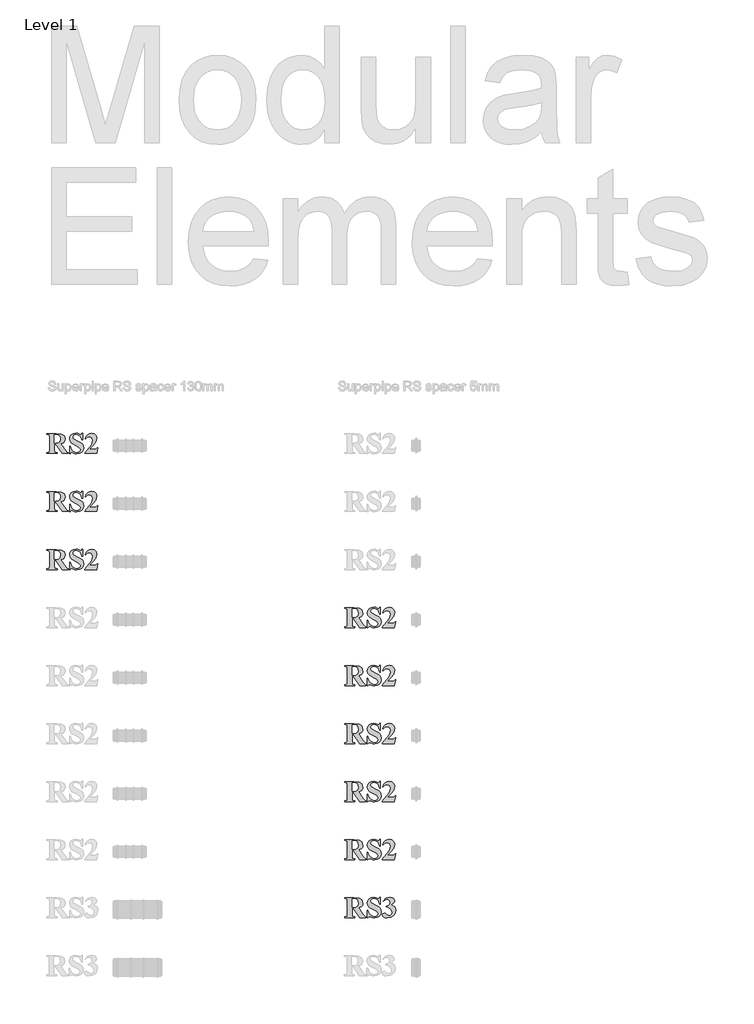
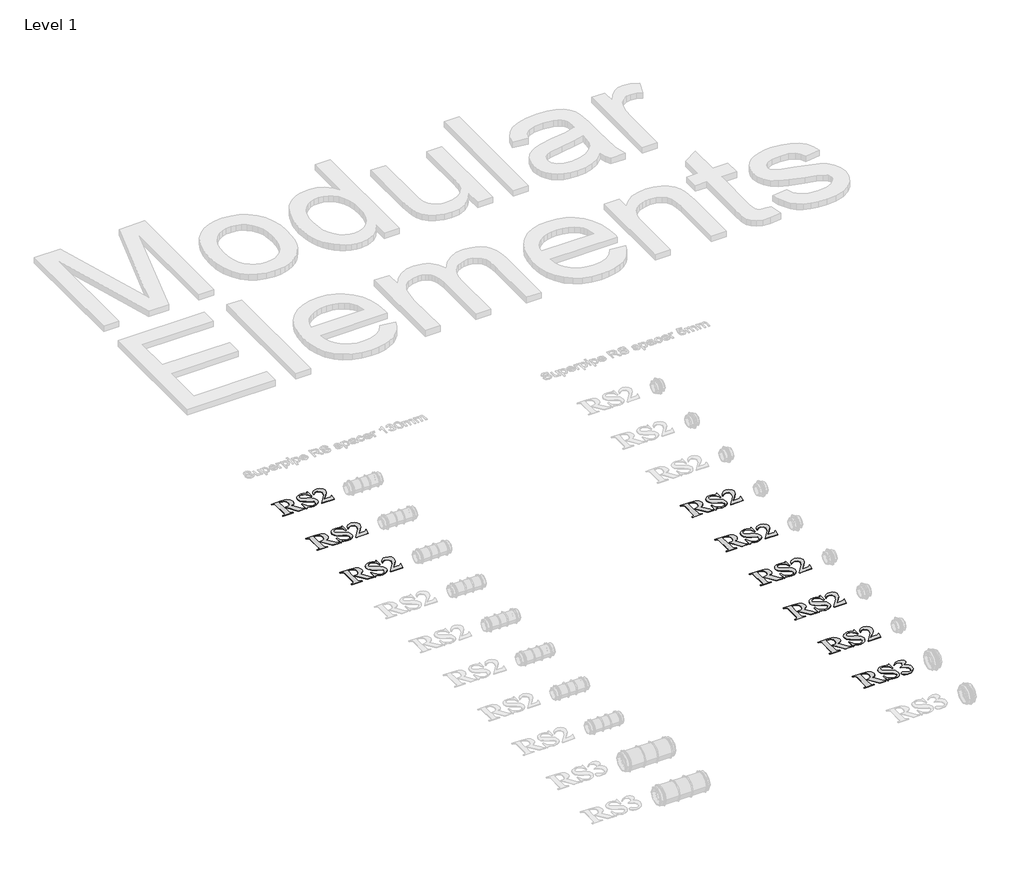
# One storey, part 50 of 57: 9 proxies.
"""IFC4 building model written with IfcOpenShell, lengths in millimetres."""

from ifc_helpers import new_model, si_unit, frame, origin, place, context, project, spatial, polyline, outline, extrude, element, save

model = new_model("IFC4")

# Units and contexts
model_context = context("Model", 3, world=origin())
ifc_project = project(units=[si_unit("LENGTHUNIT", "METRE", prefix="MILLI")], contexts=[model_context])

# Site, building, storey
site = spatial("IfcSite", under=ifc_project)
building = spatial("IfcBuilding", under=site)
storey = spatial("IfcBuildingStorey", under=building, Name="Level 1", Elevation=27.3876384)

# Proxies
placement = place(None, origin())
element("IfcBuildingElementProxy", 1, Name="100mm Arial", ObjectType="100mm Arial", at=placement, inside=storey, context=model_context, shape_type="SweptSolid", body=[
    extrude(outline(polyline([(40860.0811889, 18653.3090579), (40860.0811889, 18623.6453109), (40861.0899744, 18614.034584), (40864.6207237, 18610.8719051), (40874.0405993, 18609.6859006), (40874.0405993, 18606.196048), (40821.6928105, 18606.196048), (40821.6928105, 18609.6859006), (40831.1535827, 18610.8991696), (40834.6434353, 18614.0618485), (40835.6522208, 18623.6453109), (40835.6522208, 18691.6974363), (40834.6434353, 18701.3081631), (40831.112686, 18704.470842), (40821.6928105, 18705.6568466), (40821.6928105, 18709.1466992), (40869.2693164, 18709.1466992), (40896.4383641, 18706.6111032), (40910.4795678, 18697.2457566), (40915.9188303, 18681.2278785), (40914.003501, 18670.9968849), (40908.2575133, 18662.7153011), (40894.5707477, 18655.7628605), (40918.9997158, 18620.946128), (40925.1887512, 18612.3305545), (40931.6231669, 18609.6859006), (40931.6231669, 18606.196048), (40899.88732, 18606.196048), (40866.8427783, 18653.3090579), (40860.0811889, 18653.3090579)]), holes=[polyline([(40860.0811889, 18703.9119203), (40860.0811889, 18658.5438367), (40864.4162402, 18658.5438367), (40880.2432669, 18660.4932466), (40888.4907701, 18667.5138484), (40891.4898622, 18680.7643825), (40890.1130063, 18691.0533131), (40885.9824386, 18698.2545421), (40878.7846176, 18702.4975758), (40868.206002, 18703.9119203), (40860.0811889, 18703.9119203)])]), frame((0.0, 0.0, 27.3876384), z_axis=(0.0, 0.0, 1.0), x_axis=(1.0, 0.0, 0.0)), (0.0, 0.0, 1.0), 2.0),
    extrude(outline(polyline([(41006.6549975, 18710.8916255), (41006.6549975, 18675.9930996), (41003.1651449, 18675.9930996), (40999.1504512, 18688.0678533), (40991.7413306, 18697.5184013), (40982.26011, 18703.6222353), (40972.0291163, 18705.6568466), (40959.0784915, 18701.5535434), (40954.3072087, 18692.1064034), (40956.052135, 18686.0809548), (40963.7679809, 18679.0739851), (40981.7625333, 18670.2402958), (40997.875837, 18661.6792512), (41006.7367909, 18653.6089671), (41011.8897763, 18635.6962081), (41009.3609964, 18623.7816333), (41001.7746567, 18613.6665137), (40990.2894974, 18606.7549697), (40976.0642584, 18604.4511217), (40966.8352342, 18605.5553328), (40955.9158126, 18609.7404295), (40949.890364, 18611.4308268), (40945.6780029, 18609.713165), (40942.0927247, 18604.4511217), (40938.6028721, 18604.4511217), (40938.6028721, 18642.8395001), (40942.0927247, 18642.8395001), (40947.1673247, 18628.5904047), (40955.4659488, 18618.178784), (40965.7616955, 18611.8091214), (40976.8276637, 18609.6859006), (40990.9370286, 18614.2799643), (40996.1854397, 18624.9812701), (40994.072443, 18631.9882397), (40987.6516596, 18638.4226554), (40972.3835545, 18646.3838816), (40951.0354719, 18658.0121795), (40941.8200799, 18668.7134853), (40938.6028721, 18681.718639), (40940.9305765, 18692.948194), (40947.9136897, 18702.3714776), (40958.4411845, 18708.7615885), (40971.4020335, 18710.8916255), (40981.4080952, 18709.6919887), (40990.3644747, 18706.3520907), (40997.7667792, 18703.9119203), (41000.983987, 18705.1115571), (41003.1651449, 18710.8916255), (41006.6549975, 18710.8916255)])), frame((0.0, 0.0, 27.3876384), z_axis=(0.0, 0.0, 1.0), x_axis=(1.0, 0.0, 0.0)), (0.0, 0.0, 1.0), 2.0),
    extrude(outline(polyline([(41078.9876452, 18606.196048), (41017.1245552, 18606.196048), (41017.1245552, 18607.9409743), (41052.8955442, 18652.5456526), (41059.0027862, 18674.9297852), (41053.7816396, 18688.166687), (41041.0354983, 18693.4423626), (41030.0479156, 18690.5114317), (41021.8413091, 18681.718639), (41019.0330683, 18682.7274246), (41024.2917036, 18695.2281856), (41031.7246807, 18703.9937137), (41040.902584, 18709.1671476), (41051.3959982, 18710.8916255), (41065.9279624, 18707.3063472), (41076.2203011, 18697.4911369), (41079.9419017, 18685.80831), (41074.4344781, 18665.6598643), (41062.4312937, 18649.1171451), (41041.5262588, 18627.1351635), (41063.5014243, 18627.1351635), (41074.0391432, 18627.7349819), (41078.0470208, 18629.7798174), (41082.1775885, 18635.8597949), (41085.1766806, 18635.8597949), (41078.9876452, 18606.196048)])), frame((0.0, 0.0, 27.3876384), z_axis=(0.0, 0.0, 1.0), x_axis=(1.0, 0.0, 0.0)), (0.0, 0.0, 1.0), 2.0),
])
element("IfcBuildingElementProxy", 2, Name="100mm Arial", ObjectType="100mm Arial", at=placement, inside=storey, context=model_context, shape_type="SweptSolid", body=[
    extrude(outline(polyline([(40860.0811889, 18353.3090579), (40860.0811889, 18323.6453109), (40861.0899744, 18314.034584), (40864.6207237, 18310.8719051), (40874.0405993, 18309.6859006), (40874.0405993, 18306.196048), (40821.6928105, 18306.196048), (40821.6928105, 18309.6859006), (40831.1535827, 18310.8991696), (40834.6434353, 18314.0618485), (40835.6522208, 18323.6453109), (40835.6522208, 18391.6974363), (40834.6434353, 18401.3081631), (40831.112686, 18404.470842), (40821.6928105, 18405.6568466), (40821.6928105, 18409.1466992), (40869.2693164, 18409.1466992), (40896.4383641, 18406.6111032), (40910.4795678, 18397.2457566), (40915.9188303, 18381.2278785), (40914.003501, 18370.9968849), (40908.2575133, 18362.7153011), (40894.5707477, 18355.7628605), (40918.9997158, 18320.946128), (40925.1887512, 18312.3305545), (40931.6231669, 18309.6859006), (40931.6231669, 18306.196048), (40899.88732, 18306.196048), (40866.8427783, 18353.3090579), (40860.0811889, 18353.3090579)]), holes=[polyline([(40860.0811889, 18403.9119203), (40860.0811889, 18358.5438367), (40864.4162402, 18358.5438367), (40880.2432669, 18360.4932466), (40888.4907701, 18367.5138484), (40891.4898622, 18380.7643825), (40890.1130063, 18391.0533131), (40885.9824386, 18398.2545421), (40878.7846176, 18402.4975758), (40868.206002, 18403.9119203), (40860.0811889, 18403.9119203)])]), frame((0.0, 0.0, 27.3876384), z_axis=(0.0, 0.0, 1.0), x_axis=(1.0, 0.0, 0.0)), (0.0, 0.0, 1.0), 2.0),
    extrude(outline(polyline([(41006.6549975, 18410.8916255), (41006.6549975, 18375.9930996), (41003.1651449, 18375.9930996), (40999.1504512, 18388.0678533), (40991.7413306, 18397.5184013), (40982.26011, 18403.6222353), (40972.0291163, 18405.6568466), (40959.0784915, 18401.5535434), (40954.3072087, 18392.1064034), (40956.052135, 18386.0809548), (40963.7679809, 18379.0739851), (40981.7625333, 18370.2402958), (40997.875837, 18361.6792512), (41006.7367909, 18353.6089671), (41011.8897763, 18335.6962081), (41009.3609964, 18323.7816333), (41001.7746567, 18313.6665137), (40990.2894974, 18306.7549697), (40976.0642584, 18304.4511217), (40966.8352342, 18305.5553328), (40955.9158126, 18309.7404295), (40949.890364, 18311.4308268), (40945.6780029, 18309.713165), (40942.0927247, 18304.4511217), (40938.6028721, 18304.4511217), (40938.6028721, 18342.8395001), (40942.0927247, 18342.8395001), (40947.1673247, 18328.5904047), (40955.4659488, 18318.178784), (40965.7616955, 18311.8091214), (40976.8276637, 18309.6859006), (40990.9370286, 18314.2799643), (40996.1854397, 18324.9812701), (40994.072443, 18331.9882397), (40987.6516596, 18338.4226554), (40972.3835545, 18346.3838816), (40951.0354719, 18358.0121795), (40941.8200799, 18368.7134853), (40938.6028721, 18381.718639), (40940.9305765, 18392.948194), (40947.9136897, 18402.3714776), (40958.4411845, 18408.7615885), (40971.4020335, 18410.8916255), (40981.4080952, 18409.6919887), (40990.3644747, 18406.3520907), (40997.7667792, 18403.9119203), (41000.983987, 18405.1115571), (41003.1651449, 18410.8916255), (41006.6549975, 18410.8916255)])), frame((0.0, 0.0, 27.3876384), z_axis=(0.0, 0.0, 1.0), x_axis=(1.0, 0.0, 0.0)), (0.0, 0.0, 1.0), 2.0),
    extrude(outline(polyline([(41078.9876452, 18306.196048), (41017.1245552, 18306.196048), (41017.1245552, 18307.9409743), (41052.8955442, 18352.5456526), (41059.0027862, 18374.9297852), (41053.7816396, 18388.166687), (41041.0354983, 18393.4423626), (41030.0479156, 18390.5114317), (41021.8413091, 18381.718639), (41019.0330683, 18382.7274246), (41024.2917036, 18395.2281856), (41031.7246807, 18403.9937137), (41040.902584, 18409.1671476), (41051.3959982, 18410.8916255), (41065.9279624, 18407.3063472), (41076.2203011, 18397.4911369), (41079.9419017, 18385.80831), (41074.4344781, 18365.6598643), (41062.4312937, 18349.1171451), (41041.5262588, 18327.1351635), (41063.5014243, 18327.1351635), (41074.0391432, 18327.7349819), (41078.0470208, 18329.7798174), (41082.1775885, 18335.8597949), (41085.1766806, 18335.8597949), (41078.9876452, 18306.196048)])), frame((0.0, 0.0, 27.3876384), z_axis=(0.0, 0.0, 1.0), x_axis=(1.0, 0.0, 0.0)), (0.0, 0.0, 1.0), 2.0),
])
element("IfcBuildingElementProxy", 3, Name="100mm Arial", ObjectType="100mm Arial", at=placement, inside=storey, context=model_context, shape_type="SweptSolid", body=[
    extrude(outline(polyline([(40860.0811889, 18053.3090579), (40860.0811889, 18023.6453109), (40861.0899744, 18014.034584), (40864.6207237, 18010.8719051), (40874.0405993, 18009.6859006), (40874.0405993, 18006.196048), (40821.6928105, 18006.196048), (40821.6928105, 18009.6859006), (40831.1535827, 18010.8991696), (40834.6434353, 18014.0618485), (40835.6522208, 18023.6453109), (40835.6522208, 18091.6974363), (40834.6434353, 18101.3081631), (40831.112686, 18104.470842), (40821.6928105, 18105.6568466), (40821.6928105, 18109.1466992), (40869.2693164, 18109.1466992), (40896.4383641, 18106.6111032), (40910.4795678, 18097.2457566), (40915.9188303, 18081.2278785), (40914.003501, 18070.9968849), (40908.2575133, 18062.7153011), (40894.5707477, 18055.7628605), (40918.9997158, 18020.946128), (40925.1887512, 18012.3305545), (40931.6231669, 18009.6859006), (40931.6231669, 18006.196048), (40899.88732, 18006.196048), (40866.8427783, 18053.3090579), (40860.0811889, 18053.3090579)]), holes=[polyline([(40860.0811889, 18103.9119203), (40860.0811889, 18058.5438367), (40864.4162402, 18058.5438367), (40880.2432669, 18060.4932466), (40888.4907701, 18067.5138484), (40891.4898622, 18080.7643825), (40890.1130063, 18091.0533131), (40885.9824386, 18098.2545421), (40878.7846176, 18102.4975758), (40868.206002, 18103.9119203), (40860.0811889, 18103.9119203)])]), frame((0.0, 0.0, 27.3876384), z_axis=(0.0, 0.0, 1.0), x_axis=(1.0, 0.0, 0.0)), (0.0, 0.0, 1.0), 2.0),
    extrude(outline(polyline([(41006.6549975, 18110.8916255), (41006.6549975, 18075.9930996), (41003.1651449, 18075.9930996), (40999.1504512, 18088.0678533), (40991.7413306, 18097.5184013), (40982.26011, 18103.6222353), (40972.0291163, 18105.6568466), (40959.0784915, 18101.5535434), (40954.3072087, 18092.1064034), (40956.052135, 18086.0809548), (40963.7679809, 18079.0739851), (40981.7625333, 18070.2402958), (40997.875837, 18061.6792512), (41006.7367909, 18053.6089671), (41011.8897763, 18035.6962081), (41009.3609964, 18023.7816333), (41001.7746567, 18013.6665137), (40990.2894974, 18006.7549697), (40976.0642584, 18004.4511217), (40966.8352342, 18005.5553328), (40955.9158126, 18009.7404295), (40949.890364, 18011.4308268), (40945.6780029, 18009.713165), (40942.0927247, 18004.4511217), (40938.6028721, 18004.4511217), (40938.6028721, 18042.8395001), (40942.0927247, 18042.8395001), (40947.1673247, 18028.5904047), (40955.4659488, 18018.178784), (40965.7616955, 18011.8091214), (40976.8276637, 18009.6859006), (40990.9370286, 18014.2799643), (40996.1854397, 18024.9812701), (40994.072443, 18031.9882397), (40987.6516596, 18038.4226554), (40972.3835545, 18046.3838816), (40951.0354719, 18058.0121795), (40941.8200799, 18068.7134853), (40938.6028721, 18081.718639), (40940.9305765, 18092.948194), (40947.9136897, 18102.3714776), (40958.4411845, 18108.7615885), (40971.4020335, 18110.8916255), (40981.4080952, 18109.6919887), (40990.3644747, 18106.3520907), (40997.7667792, 18103.9119203), (41000.983987, 18105.1115571), (41003.1651449, 18110.8916255), (41006.6549975, 18110.8916255)])), frame((0.0, 0.0, 27.3876384), z_axis=(0.0, 0.0, 1.0), x_axis=(1.0, 0.0, 0.0)), (0.0, 0.0, 1.0), 2.0),
    extrude(outline(polyline([(41078.9876452, 18006.196048), (41017.1245552, 18006.196048), (41017.1245552, 18007.9409743), (41052.8955442, 18052.5456526), (41059.0027862, 18074.9297852), (41053.7816396, 18088.166687), (41041.0354983, 18093.4423626), (41030.0479156, 18090.5114317), (41021.8413091, 18081.718639), (41019.0330683, 18082.7274246), (41024.2917036, 18095.2281856), (41031.7246807, 18103.9937137), (41040.902584, 18109.1671476), (41051.3959982, 18110.8916255), (41065.9279624, 18107.3063472), (41076.2203011, 18097.4911369), (41079.9419017, 18085.80831), (41074.4344781, 18065.6598643), (41062.4312937, 18049.1171451), (41041.5262588, 18027.1351635), (41063.5014243, 18027.1351635), (41074.0391432, 18027.7349819), (41078.0470208, 18029.7798174), (41082.1775885, 18035.8597949), (41085.1766806, 18035.8597949), (41078.9876452, 18006.196048)])), frame((0.0, 0.0, 27.3876384), z_axis=(0.0, 0.0, 1.0), x_axis=(1.0, 0.0, 0.0)), (0.0, 0.0, 1.0), 2.0),
])
element("IfcBuildingElementProxy", 4, Name="100mm Arial", ObjectType="100mm Arial", at=placement, inside=storey, context=model_context, shape_type="SweptSolid", body=[
    extrude(outline(polyline([(42400.0811889, 17753.3090579), (42400.0811889, 17723.6453109), (42401.0899744, 17714.034584), (42404.6207237, 17710.8719051), (42414.0405993, 17709.6859006), (42414.0405993, 17706.196048), (42361.6928105, 17706.196048), (42361.6928105, 17709.6859006), (42371.1535827, 17710.8991696), (42374.6434353, 17714.0618485), (42375.6522208, 17723.6453109), (42375.6522208, 17791.6974363), (42374.6434353, 17801.3081631), (42371.112686, 17804.470842), (42361.6928105, 17805.6568466), (42361.6928105, 17809.1466992), (42409.2693164, 17809.1466992), (42436.4383641, 17806.6111032), (42450.4795678, 17797.2457566), (42455.9188303, 17781.2278785), (42454.003501, 17770.9968849), (42448.2575133, 17762.7153011), (42434.5707477, 17755.7628605), (42458.9997158, 17720.946128), (42465.1887512, 17712.3305545), (42471.6231669, 17709.6859006), (42471.6231669, 17706.196048), (42439.88732, 17706.196048), (42406.8427783, 17753.3090579), (42400.0811889, 17753.3090579)]), holes=[polyline([(42400.0811889, 17803.9119203), (42400.0811889, 17758.5438367), (42404.4162402, 17758.5438367), (42420.2432669, 17760.4932466), (42428.4907701, 17767.5138484), (42431.4898622, 17780.7643825), (42430.1130063, 17791.0533131), (42425.9824386, 17798.2545421), (42418.7846176, 17802.4975758), (42408.206002, 17803.9119203), (42400.0811889, 17803.9119203)])]), frame((0.0, 0.0, 27.3876384), z_axis=(0.0, 0.0, 1.0), x_axis=(1.0, 0.0, 0.0)), (0.0, 0.0, 1.0), 2.0),
    extrude(outline(polyline([(42546.6549975, 17810.8916255), (42546.6549975, 17775.9930996), (42543.1651449, 17775.9930996), (42539.1504512, 17788.0678533), (42531.7413306, 17797.5184013), (42522.26011, 17803.6222353), (42512.0291163, 17805.6568466), (42499.0784915, 17801.5535434), (42494.3072087, 17792.1064034), (42496.052135, 17786.0809548), (42503.7679809, 17779.0739851), (42521.7625333, 17770.2402958), (42537.875837, 17761.6792512), (42546.7367909, 17753.6089671), (42551.8897763, 17735.6962081), (42549.3609964, 17723.7816333), (42541.7746567, 17713.6665137), (42530.2894974, 17706.7549697), (42516.0642584, 17704.4511217), (42506.8352342, 17705.5553328), (42495.9158126, 17709.7404295), (42489.890364, 17711.4308268), (42485.6780029, 17709.713165), (42482.0927247, 17704.4511217), (42478.6028721, 17704.4511217), (42478.6028721, 17742.8395001), (42482.0927247, 17742.8395001), (42487.1673247, 17728.5904047), (42495.4659488, 17718.178784), (42505.7616955, 17711.8091214), (42516.8276637, 17709.6859006), (42530.9370286, 17714.2799643), (42536.1854397, 17724.9812701), (42534.072443, 17731.9882397), (42527.6516596, 17738.4226554), (42512.3835545, 17746.3838816), (42491.0354719, 17758.0121795), (42481.8200799, 17768.7134853), (42478.6028721, 17781.718639), (42480.9305765, 17792.948194), (42487.9136897, 17802.3714776), (42498.4411845, 17808.7615885), (42511.4020335, 17810.8916255), (42521.4080952, 17809.6919887), (42530.3644747, 17806.3520907), (42537.7667792, 17803.9119203), (42540.983987, 17805.1115571), (42543.1651449, 17810.8916255), (42546.6549975, 17810.8916255)])), frame((0.0, 0.0, 27.3876384), z_axis=(0.0, 0.0, 1.0), x_axis=(1.0, 0.0, 0.0)), (0.0, 0.0, 1.0), 2.0),
    extrude(outline(polyline([(42618.9876452, 17706.196048), (42557.1245552, 17706.196048), (42557.1245552, 17707.9409743), (42592.8955442, 17752.5456526), (42599.0027862, 17774.9297852), (42593.7816396, 17788.166687), (42581.0354983, 17793.4423626), (42570.0479156, 17790.5114317), (42561.8413091, 17781.718639), (42559.0330683, 17782.7274246), (42564.2917036, 17795.2281856), (42571.7246807, 17803.9937137), (42580.902584, 17809.1671476), (42591.3959982, 17810.8916255), (42605.9279624, 17807.3063472), (42616.2203011, 17797.4911369), (42619.9419017, 17785.80831), (42614.4344781, 17765.6598643), (42602.4312937, 17749.1171451), (42581.5262588, 17727.1351635), (42603.5014243, 17727.1351635), (42614.0391432, 17727.7349819), (42618.0470208, 17729.7798174), (42622.1775885, 17735.8597949), (42625.1766806, 17735.8597949), (42618.9876452, 17706.196048)])), frame((0.0, 0.0, 27.3876384), z_axis=(0.0, 0.0, 1.0), x_axis=(1.0, 0.0, 0.0)), (0.0, 0.0, 1.0), 2.0),
])
element("IfcBuildingElementProxy", 5, Name="100mm Arial", ObjectType="100mm Arial", at=placement, inside=storey, context=model_context, shape_type="SweptSolid", body=[
    extrude(outline(polyline([(42400.0811889, 17453.3090579), (42400.0811889, 17423.6453109), (42401.0899744, 17414.034584), (42404.6207237, 17410.8719051), (42414.0405993, 17409.6859006), (42414.0405993, 17406.196048), (42361.6928105, 17406.196048), (42361.6928105, 17409.6859006), (42371.1535827, 17410.8991696), (42374.6434353, 17414.0618485), (42375.6522208, 17423.6453109), (42375.6522208, 17491.6974363), (42374.6434353, 17501.3081631), (42371.112686, 17504.470842), (42361.6928105, 17505.6568466), (42361.6928105, 17509.1466992), (42409.2693164, 17509.1466992), (42436.4383641, 17506.6111032), (42450.4795678, 17497.2457566), (42455.9188303, 17481.2278785), (42454.003501, 17470.9968849), (42448.2575133, 17462.7153011), (42434.5707477, 17455.7628605), (42458.9997158, 17420.946128), (42465.1887512, 17412.3305545), (42471.6231669, 17409.6859006), (42471.6231669, 17406.196048), (42439.88732, 17406.196048), (42406.8427783, 17453.3090579), (42400.0811889, 17453.3090579)]), holes=[polyline([(42400.0811889, 17503.9119203), (42400.0811889, 17458.5438367), (42404.4162402, 17458.5438367), (42420.2432669, 17460.4932466), (42428.4907701, 17467.5138484), (42431.4898622, 17480.7643825), (42430.1130063, 17491.0533131), (42425.9824386, 17498.2545421), (42418.7846176, 17502.4975758), (42408.206002, 17503.9119203), (42400.0811889, 17503.9119203)])]), frame((0.0, 0.0, 27.3876384), z_axis=(0.0, 0.0, 1.0), x_axis=(1.0, 0.0, 0.0)), (0.0, 0.0, 1.0), 2.0),
    extrude(outline(polyline([(42546.6549975, 17510.8916255), (42546.6549975, 17475.9930996), (42543.1651449, 17475.9930996), (42539.1504512, 17488.0678533), (42531.7413306, 17497.5184013), (42522.26011, 17503.6222353), (42512.0291163, 17505.6568466), (42499.0784915, 17501.5535434), (42494.3072087, 17492.1064034), (42496.052135, 17486.0809548), (42503.7679809, 17479.0739851), (42521.7625333, 17470.2402958), (42537.875837, 17461.6792512), (42546.7367909, 17453.6089671), (42551.8897763, 17435.6962081), (42549.3609964, 17423.7816333), (42541.7746567, 17413.6665137), (42530.2894974, 17406.7549697), (42516.0642584, 17404.4511217), (42506.8352342, 17405.5553328), (42495.9158126, 17409.7404295), (42489.890364, 17411.4308268), (42485.6780029, 17409.713165), (42482.0927247, 17404.4511217), (42478.6028721, 17404.4511217), (42478.6028721, 17442.8395001), (42482.0927247, 17442.8395001), (42487.1673247, 17428.5904047), (42495.4659488, 17418.178784), (42505.7616955, 17411.8091214), (42516.8276637, 17409.6859006), (42530.9370286, 17414.2799643), (42536.1854397, 17424.9812701), (42534.072443, 17431.9882397), (42527.6516596, 17438.4226554), (42512.3835545, 17446.3838816), (42491.0354719, 17458.0121795), (42481.8200799, 17468.7134853), (42478.6028721, 17481.718639), (42480.9305765, 17492.948194), (42487.9136897, 17502.3714776), (42498.4411845, 17508.7615885), (42511.4020335, 17510.8916255), (42521.4080952, 17509.6919887), (42530.3644747, 17506.3520907), (42537.7667792, 17503.9119203), (42540.983987, 17505.1115571), (42543.1651449, 17510.8916255), (42546.6549975, 17510.8916255)])), frame((0.0, 0.0, 27.3876384), z_axis=(0.0, 0.0, 1.0), x_axis=(1.0, 0.0, 0.0)), (0.0, 0.0, 1.0), 2.0),
    extrude(outline(polyline([(42618.9876452, 17406.196048), (42557.1245552, 17406.196048), (42557.1245552, 17407.9409743), (42592.8955442, 17452.5456526), (42599.0027862, 17474.9297852), (42593.7816396, 17488.166687), (42581.0354983, 17493.4423626), (42570.0479156, 17490.5114317), (42561.8413091, 17481.718639), (42559.0330683, 17482.7274246), (42564.2917036, 17495.2281856), (42571.7246807, 17503.9937137), (42580.902584, 17509.1671476), (42591.3959982, 17510.8916255), (42605.9279624, 17507.3063472), (42616.2203011, 17497.4911369), (42619.9419017, 17485.80831), (42614.4344781, 17465.6598643), (42602.4312937, 17449.1171451), (42581.5262588, 17427.1351635), (42603.5014243, 17427.1351635), (42614.0391432, 17427.7349819), (42618.0470208, 17429.7798174), (42622.1775885, 17435.8597949), (42625.1766806, 17435.8597949), (42618.9876452, 17406.196048)])), frame((0.0, 0.0, 27.3876384), z_axis=(0.0, 0.0, 1.0), x_axis=(1.0, 0.0, 0.0)), (0.0, 0.0, 1.0), 2.0),
])
element("IfcBuildingElementProxy", 6, Name="100mm Arial", ObjectType="100mm Arial", at=placement, inside=storey, context=model_context, shape_type="SweptSolid", body=[
    extrude(outline(polyline([(42400.0811889, 17153.3090579), (42400.0811889, 17123.6453109), (42401.0899744, 17114.034584), (42404.6207237, 17110.8719051), (42414.0405993, 17109.6859006), (42414.0405993, 17106.196048), (42361.6928105, 17106.196048), (42361.6928105, 17109.6859006), (42371.1535827, 17110.8991696), (42374.6434353, 17114.0618485), (42375.6522208, 17123.6453109), (42375.6522208, 17191.6974363), (42374.6434353, 17201.3081631), (42371.112686, 17204.470842), (42361.6928105, 17205.6568466), (42361.6928105, 17209.1466992), (42409.2693164, 17209.1466992), (42436.4383641, 17206.6111032), (42450.4795678, 17197.2457566), (42455.9188303, 17181.2278785), (42454.003501, 17170.9968849), (42448.2575133, 17162.7153011), (42434.5707477, 17155.7628605), (42458.9997158, 17120.946128), (42465.1887512, 17112.3305545), (42471.6231669, 17109.6859006), (42471.6231669, 17106.196048), (42439.88732, 17106.196048), (42406.8427783, 17153.3090579), (42400.0811889, 17153.3090579)]), holes=[polyline([(42400.0811889, 17203.9119203), (42400.0811889, 17158.5438367), (42404.4162402, 17158.5438367), (42420.2432669, 17160.4932466), (42428.4907701, 17167.5138484), (42431.4898622, 17180.7643825), (42430.1130063, 17191.0533131), (42425.9824386, 17198.2545421), (42418.7846176, 17202.4975758), (42408.206002, 17203.9119203), (42400.0811889, 17203.9119203)])]), frame((0.0, 0.0, 27.3876384), z_axis=(0.0, 0.0, 1.0), x_axis=(1.0, 0.0, 0.0)), (0.0, 0.0, 1.0), 2.0),
    extrude(outline(polyline([(42546.6549975, 17210.8916255), (42546.6549975, 17175.9930996), (42543.1651449, 17175.9930996), (42539.1504512, 17188.0678533), (42531.7413306, 17197.5184013), (42522.26011, 17203.6222353), (42512.0291163, 17205.6568466), (42499.0784915, 17201.5535434), (42494.3072087, 17192.1064034), (42496.052135, 17186.0809548), (42503.7679809, 17179.0739851), (42521.7625333, 17170.2402958), (42537.875837, 17161.6792512), (42546.7367909, 17153.6089671), (42551.8897763, 17135.6962081), (42549.3609964, 17123.7816333), (42541.7746567, 17113.6665137), (42530.2894974, 17106.7549697), (42516.0642584, 17104.4511217), (42506.8352342, 17105.5553328), (42495.9158126, 17109.7404295), (42489.890364, 17111.4308268), (42485.6780029, 17109.713165), (42482.0927247, 17104.4511217), (42478.6028721, 17104.4511217), (42478.6028721, 17142.8395001), (42482.0927247, 17142.8395001), (42487.1673247, 17128.5904047), (42495.4659488, 17118.178784), (42505.7616955, 17111.8091214), (42516.8276637, 17109.6859006), (42530.9370286, 17114.2799643), (42536.1854397, 17124.9812701), (42534.072443, 17131.9882397), (42527.6516596, 17138.4226554), (42512.3835545, 17146.3838816), (42491.0354719, 17158.0121795), (42481.8200799, 17168.7134853), (42478.6028721, 17181.718639), (42480.9305765, 17192.948194), (42487.9136897, 17202.3714776), (42498.4411845, 17208.7615885), (42511.4020335, 17210.8916255), (42521.4080952, 17209.6919887), (42530.3644747, 17206.3520907), (42537.7667792, 17203.9119203), (42540.983987, 17205.1115571), (42543.1651449, 17210.8916255), (42546.6549975, 17210.8916255)])), frame((0.0, 0.0, 27.3876384), z_axis=(0.0, 0.0, 1.0), x_axis=(1.0, 0.0, 0.0)), (0.0, 0.0, 1.0), 2.0),
    extrude(outline(polyline([(42618.9876452, 17106.196048), (42557.1245552, 17106.196048), (42557.1245552, 17107.9409743), (42592.8955442, 17152.5456526), (42599.0027862, 17174.9297852), (42593.7816396, 17188.166687), (42581.0354983, 17193.4423626), (42570.0479156, 17190.5114317), (42561.8413091, 17181.718639), (42559.0330683, 17182.7274246), (42564.2917036, 17195.2281856), (42571.7246807, 17203.9937137), (42580.902584, 17209.1671476), (42591.3959982, 17210.8916255), (42605.9279624, 17207.3063472), (42616.2203011, 17197.4911369), (42619.9419017, 17185.80831), (42614.4344781, 17165.6598643), (42602.4312937, 17149.1171451), (42581.5262588, 17127.1351635), (42603.5014243, 17127.1351635), (42614.0391432, 17127.7349819), (42618.0470208, 17129.7798174), (42622.1775885, 17135.8597949), (42625.1766806, 17135.8597949), (42618.9876452, 17106.196048)])), frame((0.0, 0.0, 27.3876384), z_axis=(0.0, 0.0, 1.0), x_axis=(1.0, 0.0, 0.0)), (0.0, 0.0, 1.0), 2.0),
])
element("IfcBuildingElementProxy", 7, Name="100mm Arial", ObjectType="100mm Arial", at=placement, inside=storey, context=model_context, shape_type="SweptSolid", body=[
    extrude(outline(polyline([(42400.0811889, 16853.3090579), (42400.0811889, 16823.6453109), (42401.0899744, 16814.034584), (42404.6207237, 16810.8719051), (42414.0405993, 16809.6859006), (42414.0405993, 16806.196048), (42361.6928105, 16806.196048), (42361.6928105, 16809.6859006), (42371.1535827, 16810.8991696), (42374.6434353, 16814.0618485), (42375.6522208, 16823.6453109), (42375.6522208, 16891.6974363), (42374.6434353, 16901.3081631), (42371.112686, 16904.470842), (42361.6928105, 16905.6568466), (42361.6928105, 16909.1466992), (42409.2693164, 16909.1466992), (42436.4383641, 16906.6111032), (42450.4795678, 16897.2457566), (42455.9188303, 16881.2278785), (42454.003501, 16870.9968849), (42448.2575133, 16862.7153011), (42434.5707477, 16855.7628605), (42458.9997158, 16820.946128), (42465.1887512, 16812.3305545), (42471.6231669, 16809.6859006), (42471.6231669, 16806.196048), (42439.88732, 16806.196048), (42406.8427783, 16853.3090579), (42400.0811889, 16853.3090579)]), holes=[polyline([(42400.0811889, 16903.9119203), (42400.0811889, 16858.5438367), (42404.4162402, 16858.5438367), (42420.2432669, 16860.4932466), (42428.4907701, 16867.5138484), (42431.4898622, 16880.7643825), (42430.1130063, 16891.0533131), (42425.9824386, 16898.2545421), (42418.7846176, 16902.4975758), (42408.206002, 16903.9119203), (42400.0811889, 16903.9119203)])]), frame((0.0, 0.0, 27.3876384), z_axis=(0.0, 0.0, 1.0), x_axis=(1.0, 0.0, 0.0)), (0.0, 0.0, 1.0), 2.0),
    extrude(outline(polyline([(42546.6549975, 16910.8916255), (42546.6549975, 16875.9930996), (42543.1651449, 16875.9930996), (42539.1504512, 16888.0678533), (42531.7413306, 16897.5184013), (42522.26011, 16903.6222353), (42512.0291163, 16905.6568466), (42499.0784915, 16901.5535434), (42494.3072087, 16892.1064034), (42496.052135, 16886.0809548), (42503.7679809, 16879.0739851), (42521.7625333, 16870.2402958), (42537.875837, 16861.6792512), (42546.7367909, 16853.6089671), (42551.8897763, 16835.6962081), (42549.3609964, 16823.7816333), (42541.7746567, 16813.6665137), (42530.2894974, 16806.7549697), (42516.0642584, 16804.4511217), (42506.8352342, 16805.5553328), (42495.9158126, 16809.7404295), (42489.890364, 16811.4308268), (42485.6780029, 16809.713165), (42482.0927247, 16804.4511217), (42478.6028721, 16804.4511217), (42478.6028721, 16842.8395001), (42482.0927247, 16842.8395001), (42487.1673247, 16828.5904047), (42495.4659488, 16818.178784), (42505.7616955, 16811.8091214), (42516.8276637, 16809.6859006), (42530.9370286, 16814.2799643), (42536.1854397, 16824.9812701), (42534.072443, 16831.9882397), (42527.6516596, 16838.4226554), (42512.3835545, 16846.3838816), (42491.0354719, 16858.0121795), (42481.8200799, 16868.7134853), (42478.6028721, 16881.718639), (42480.9305765, 16892.948194), (42487.9136897, 16902.3714776), (42498.4411845, 16908.7615885), (42511.4020335, 16910.8916255), (42521.4080952, 16909.6919887), (42530.3644747, 16906.3520907), (42537.7667792, 16903.9119203), (42540.983987, 16905.1115571), (42543.1651449, 16910.8916255), (42546.6549975, 16910.8916255)])), frame((0.0, 0.0, 27.3876384), z_axis=(0.0, 0.0, 1.0), x_axis=(1.0, 0.0, 0.0)), (0.0, 0.0, 1.0), 2.0),
    extrude(outline(polyline([(42618.9876452, 16806.196048), (42557.1245552, 16806.196048), (42557.1245552, 16807.9409743), (42592.8955442, 16852.5456526), (42599.0027862, 16874.9297852), (42593.7816396, 16888.166687), (42581.0354983, 16893.4423626), (42570.0479156, 16890.5114317), (42561.8413091, 16881.718639), (42559.0330683, 16882.7274246), (42564.2917036, 16895.2281856), (42571.7246807, 16903.9937137), (42580.902584, 16909.1671476), (42591.3959982, 16910.8916255), (42605.9279624, 16907.3063472), (42616.2203011, 16897.4911369), (42619.9419017, 16885.80831), (42614.4344781, 16865.6598643), (42602.4312937, 16849.1171451), (42581.5262588, 16827.1351635), (42603.5014243, 16827.1351635), (42614.0391432, 16827.7349819), (42618.0470208, 16829.7798174), (42622.1775885, 16835.8597949), (42625.1766806, 16835.8597949), (42618.9876452, 16806.196048)])), frame((0.0, 0.0, 27.3876384), z_axis=(0.0, 0.0, 1.0), x_axis=(1.0, 0.0, 0.0)), (0.0, 0.0, 1.0), 2.0),
])
element("IfcBuildingElementProxy", 8, Name="100mm Arial", ObjectType="100mm Arial", at=placement, inside=storey, context=model_context, shape_type="SweptSolid", body=[
    extrude(outline(polyline([(42400.0811889, 16553.3090579), (42400.0811889, 16523.6453109), (42401.0899744, 16514.034584), (42404.6207237, 16510.8719051), (42414.0405993, 16509.6859006), (42414.0405993, 16506.196048), (42361.6928105, 16506.196048), (42361.6928105, 16509.6859006), (42371.1535827, 16510.8991696), (42374.6434353, 16514.0618485), (42375.6522208, 16523.6453109), (42375.6522208, 16591.6974363), (42374.6434353, 16601.3081631), (42371.112686, 16604.470842), (42361.6928105, 16605.6568466), (42361.6928105, 16609.1466992), (42409.2693164, 16609.1466992), (42436.4383641, 16606.6111032), (42450.4795678, 16597.2457566), (42455.9188303, 16581.2278785), (42454.003501, 16570.9968849), (42448.2575133, 16562.7153011), (42434.5707477, 16555.7628605), (42458.9997158, 16520.946128), (42465.1887512, 16512.3305545), (42471.6231669, 16509.6859006), (42471.6231669, 16506.196048), (42439.88732, 16506.196048), (42406.8427783, 16553.3090579), (42400.0811889, 16553.3090579)]), holes=[polyline([(42400.0811889, 16603.9119203), (42400.0811889, 16558.5438367), (42404.4162402, 16558.5438367), (42420.2432669, 16560.4932466), (42428.4907701, 16567.5138484), (42431.4898622, 16580.7643825), (42430.1130063, 16591.0533131), (42425.9824386, 16598.2545421), (42418.7846176, 16602.4975758), (42408.206002, 16603.9119203), (42400.0811889, 16603.9119203)])]), frame((0.0, 0.0, 27.3876384), z_axis=(0.0, 0.0, 1.0), x_axis=(1.0, 0.0, 0.0)), (0.0, 0.0, 1.0), 2.0),
    extrude(outline(polyline([(42546.6549975, 16610.8916255), (42546.6549975, 16575.9930996), (42543.1651449, 16575.9930996), (42539.1504512, 16588.0678533), (42531.7413306, 16597.5184013), (42522.26011, 16603.6222353), (42512.0291163, 16605.6568466), (42499.0784915, 16601.5535434), (42494.3072087, 16592.1064034), (42496.052135, 16586.0809548), (42503.7679809, 16579.0739851), (42521.7625333, 16570.2402958), (42537.875837, 16561.6792512), (42546.7367909, 16553.6089671), (42551.8897763, 16535.6962081), (42549.3609964, 16523.7816333), (42541.7746567, 16513.6665137), (42530.2894974, 16506.7549697), (42516.0642584, 16504.4511217), (42506.8352342, 16505.5553328), (42495.9158126, 16509.7404295), (42489.890364, 16511.4308268), (42485.6780029, 16509.713165), (42482.0927247, 16504.4511217), (42478.6028721, 16504.4511217), (42478.6028721, 16542.8395001), (42482.0927247, 16542.8395001), (42487.1673247, 16528.5904047), (42495.4659488, 16518.178784), (42505.7616955, 16511.8091214), (42516.8276637, 16509.6859006), (42530.9370286, 16514.2799643), (42536.1854397, 16524.9812701), (42534.072443, 16531.9882397), (42527.6516596, 16538.4226554), (42512.3835545, 16546.3838816), (42491.0354719, 16558.0121795), (42481.8200799, 16568.7134853), (42478.6028721, 16581.718639), (42480.9305765, 16592.948194), (42487.9136897, 16602.3714776), (42498.4411845, 16608.7615885), (42511.4020335, 16610.8916255), (42521.4080952, 16609.6919887), (42530.3644747, 16606.3520907), (42537.7667792, 16603.9119203), (42540.983987, 16605.1115571), (42543.1651449, 16610.8916255), (42546.6549975, 16610.8916255)])), frame((0.0, 0.0, 27.3876384), z_axis=(0.0, 0.0, 1.0), x_axis=(1.0, 0.0, 0.0)), (0.0, 0.0, 1.0), 2.0),
    extrude(outline(polyline([(42618.9876452, 16506.196048), (42557.1245552, 16506.196048), (42557.1245552, 16507.9409743), (42592.8955442, 16552.5456526), (42599.0027862, 16574.9297852), (42593.7816396, 16588.166687), (42581.0354983, 16593.4423626), (42570.0479156, 16590.5114317), (42561.8413091, 16581.718639), (42559.0330683, 16582.7274246), (42564.2917036, 16595.2281856), (42571.7246807, 16603.9937137), (42580.902584, 16609.1671476), (42591.3959982, 16610.8916255), (42605.9279624, 16607.3063472), (42616.2203011, 16597.4911369), (42619.9419017, 16585.80831), (42614.4344781, 16565.6598643), (42602.4312937, 16549.1171451), (42581.5262588, 16527.1351635), (42603.5014243, 16527.1351635), (42614.0391432, 16527.7349819), (42618.0470208, 16529.7798174), (42622.1775885, 16535.8597949), (42625.1766806, 16535.8597949), (42618.9876452, 16506.196048)])), frame((0.0, 0.0, 27.3876384), z_axis=(0.0, 0.0, 1.0), x_axis=(1.0, 0.0, 0.0)), (0.0, 0.0, 1.0), 2.0),
])
element("IfcBuildingElementProxy", 9, Name="100mm Arial", ObjectType="100mm Arial", at=placement, inside=storey, context=model_context, shape_type="SweptSolid", body=[
    extrude(outline(polyline([(42400.0811889, 16253.3090579), (42400.0811889, 16223.6453109), (42401.0899744, 16214.034584), (42404.6207237, 16210.8719051), (42414.0405993, 16209.6859006), (42414.0405993, 16206.196048), (42361.6928105, 16206.196048), (42361.6928105, 16209.6859006), (42371.1535827, 16210.8991696), (42374.6434353, 16214.0618485), (42375.6522208, 16223.6453109), (42375.6522208, 16291.6974363), (42374.6434353, 16301.3081631), (42371.112686, 16304.470842), (42361.6928105, 16305.6568466), (42361.6928105, 16309.1466992), (42409.2693164, 16309.1466992), (42436.4383641, 16306.6111032), (42450.4795678, 16297.2457566), (42455.9188303, 16281.2278785), (42454.003501, 16270.9968849), (42448.2575133, 16262.7153011), (42434.5707477, 16255.7628605), (42458.9997158, 16220.946128), (42465.1887512, 16212.3305545), (42471.6231669, 16209.6859006), (42471.6231669, 16206.196048), (42439.88732, 16206.196048), (42406.8427783, 16253.3090579), (42400.0811889, 16253.3090579)]), holes=[polyline([(42400.0811889, 16303.9119203), (42400.0811889, 16258.5438367), (42404.4162402, 16258.5438367), (42420.2432669, 16260.4932466), (42428.4907701, 16267.5138484), (42431.4898622, 16280.7643825), (42430.1130063, 16291.0533131), (42425.9824386, 16298.2545421), (42418.7846176, 16302.4975758), (42408.206002, 16303.9119203), (42400.0811889, 16303.9119203)])]), frame((0.0, 0.0, 27.3876384), z_axis=(0.0, 0.0, 1.0), x_axis=(1.0, 0.0, 0.0)), (0.0, 0.0, 1.0), 2.0),
    extrude(outline(polyline([(42546.6549975, 16310.8916255), (42546.6549975, 16275.9930996), (42543.1651449, 16275.9930996), (42539.1504512, 16288.0678533), (42531.7413306, 16297.5184013), (42522.26011, 16303.6222353), (42512.0291163, 16305.6568466), (42499.0784915, 16301.5535434), (42494.3072087, 16292.1064034), (42496.052135, 16286.0809548), (42503.7679809, 16279.0739851), (42521.7625333, 16270.2402958), (42537.875837, 16261.6792512), (42546.7367909, 16253.6089671), (42551.8897763, 16235.6962081), (42549.3609964, 16223.7816333), (42541.7746567, 16213.6665137), (42530.2894974, 16206.7549697), (42516.0642584, 16204.4511217), (42506.8352342, 16205.5553328), (42495.9158126, 16209.7404295), (42489.890364, 16211.4308268), (42485.6780029, 16209.713165), (42482.0927247, 16204.4511217), (42478.6028721, 16204.4511217), (42478.6028721, 16242.8395001), (42482.0927247, 16242.8395001), (42487.1673247, 16228.5904047), (42495.4659488, 16218.178784), (42505.7616955, 16211.8091214), (42516.8276637, 16209.6859006), (42530.9370286, 16214.2799643), (42536.1854397, 16224.9812701), (42534.072443, 16231.9882397), (42527.6516596, 16238.4226554), (42512.3835545, 16246.3838816), (42491.0354719, 16258.0121795), (42481.8200799, 16268.7134853), (42478.6028721, 16281.718639), (42480.9305765, 16292.948194), (42487.9136897, 16302.3714776), (42498.4411845, 16308.7615885), (42511.4020335, 16310.8916255), (42521.4080952, 16309.6919887), (42530.3644747, 16306.3520907), (42537.7667792, 16303.9119203), (42540.983987, 16305.1115571), (42543.1651449, 16310.8916255), (42546.6549975, 16310.8916255)])), frame((0.0, 0.0, 27.3876384), z_axis=(0.0, 0.0, 1.0), x_axis=(1.0, 0.0, 0.0)), (0.0, 0.0, 1.0), 2.0),
    extrude(outline(polyline([(42576.3187444, 16262.0336893), (42576.3187444, 16263.7786156), (42588.7513443, 16268.5907951), (42594.7358961, 16275.379649), (42597.2578599, 16284.6359377), (42592.5547383, 16295.773475), (42580.844647, 16300.4220677), (42570.7840563, 16297.9887135), (42562.3593341, 16290.6886508), (42560.6144078, 16291.6974363), (42575.0236819, 16306.0794459), (42594.613206, 16310.8916255), (42604.6635725, 16309.4397923), (42612.7849775, 16305.0842927), (42618.1526707, 16298.7861993), (42619.9419017, 16291.506585), (42615.9340241, 16281.7322713), (42603.3651019, 16273.4575036), (42619.5874636, 16262.1700117), (42623.7793763, 16254.6109365), (42625.1766806, 16245.3478316), (42622.1844047, 16229.585558), (42613.2075768, 16216.3793288), (42599.2072698, 16207.4331734), (42581.1445562, 16204.4511217), (42569.5435228, 16205.7325519), (42561.5686644, 16209.5768427), (42557.1245552, 16218.8740281), (42559.7010479, 16225.9491589), (42565.6583354, 16228.8800898), (42570.5114116, 16227.7895108), (42579.3723654, 16221.0551859), (42593.6589494, 16214.9206794), (42603.5832177, 16219.3784208), (42607.7274177, 16230.679545), (42605.7268869, 16240.6890148), (42599.7252948, 16249.8873665), (42589.8725957, 16257.3203435), (42576.3187444, 16262.0336893)])), frame((0.0, 0.0, 27.3876384), z_axis=(0.0, 0.0, 1.0), x_axis=(1.0, 0.0, 0.0)), (0.0, 0.0, 1.0), 2.0),
])

save(model, "model.ifc")
